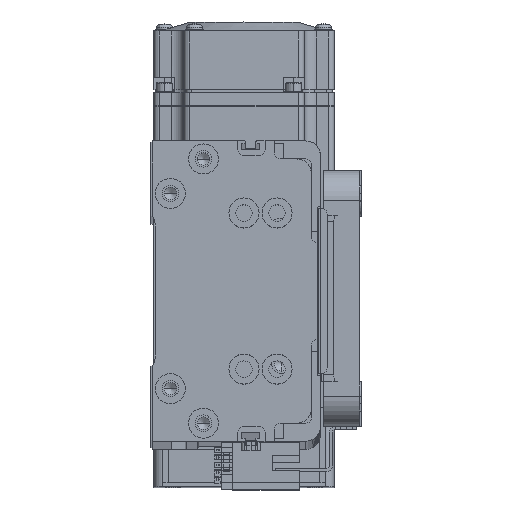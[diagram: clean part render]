
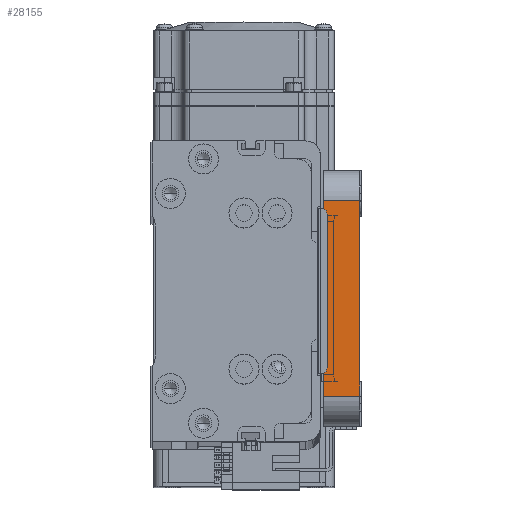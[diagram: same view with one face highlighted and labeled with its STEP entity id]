
A CAD part, top view. The second image highlights one B-rep face of the part: STEP entity #28155.
In plain terms, the highlighted planar face has unit normal (0, 0, 1) as drawn and (-1, 0, 0) by its records, which use the part's own axes.
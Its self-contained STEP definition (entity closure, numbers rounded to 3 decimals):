
#116 = VERTEX_POINT ( 'NONE', #33716 ) ;
#145 = LINE ( 'NONE', #18889, #30703 ) ;
#954 = DIRECTION ( 'NONE',  ( 1., 0., 0. ) ) ;
#3153 = LINE ( 'NONE', #37714, #62526 ) ;
#4729 = EDGE_CURVE ( 'NONE', #61781, #14181, #3153, .T. ) ;
#6270 = LINE ( 'NONE', #64742, #65691 ) ;
#9060 = DIRECTION ( 'NONE',  ( 0., -1., 0. ) ) ;
#14181 = VERTEX_POINT ( 'NONE', #22900 ) ;
#16308 = EDGE_CURVE ( 'NONE', #116, #26889, #6270, .T. ) ;
#17418 = CARTESIAN_POINT ( 'NONE',  ( -55., -32.5, 12. ) ) ;
#18889 = CARTESIAN_POINT ( 'NONE',  ( -55., -42.5, 12. ) ) ;
#21924 = ORIENTED_EDGE ( 'NONE', *, *, #37697, .T. ) ;
#22900 = CARTESIAN_POINT ( 'NONE',  ( -55., 32.5, 0. ) ) ;
#23587 = ORIENTED_EDGE ( 'NONE', *, *, #16308, .T. ) ;
#26457 = CARTESIAN_POINT ( 'NONE',  ( -55., -42.5, 0. ) ) ;
#26889 = VERTEX_POINT ( 'NONE', #17418 ) ;
#28155 = ADVANCED_FACE ( 'NONE', ( #62679 ), #29570, .F. ) ;
#29570 = PLANE ( 'NONE',  #40222 ) ;
#30703 = VECTOR ( 'NONE', #59179, 1000. ) ;
#31682 = CARTESIAN_POINT ( 'NONE',  ( -55., 32.5, 12. ) ) ;
#33716 = CARTESIAN_POINT ( 'NONE',  ( -55., -32.5, 0. ) ) ;
#37697 = EDGE_CURVE ( 'NONE', #14181, #116, #43226, .T. ) ;
#37714 = CARTESIAN_POINT ( 'NONE',  ( -55., 32.5, 12. ) ) ;
#40222 = AXIS2_PLACEMENT_3D ( 'NONE', #69816, #954, #41189 ) ;
#41189 = DIRECTION ( 'NONE',  ( 0., 0., -1. ) ) ;
#42341 = ORIENTED_EDGE ( 'NONE', *, *, #59116, .F. ) ;
#43226 = LINE ( 'NONE', #26457, #58497 ) ;
#46899 = EDGE_LOOP ( 'NONE', ( #21924, #23587, #42341, #58445 ) ) ;
#55021 = DIRECTION ( 'NONE',  ( 0., 0., -1. ) ) ;
#58445 = ORIENTED_EDGE ( 'NONE', *, *, #4729, .T. ) ;
#58497 = VECTOR ( 'NONE', #9060, 1000. ) ;
#59116 = EDGE_CURVE ( 'NONE', #61781, #26889, #145, .T. ) ;
#59179 = DIRECTION ( 'NONE',  ( 0., -1., 0. ) ) ;
#61781 = VERTEX_POINT ( 'NONE', #31682 ) ;
#62526 = VECTOR ( 'NONE', #55021, 1000. ) ;
#62679 = FACE_OUTER_BOUND ( 'NONE', #46899, .T. ) ;
#64742 = CARTESIAN_POINT ( 'NONE',  ( -55., -32.5, 12. ) ) ;
#65691 = VECTOR ( 'NONE', #70482, 1000. ) ;
#69816 = CARTESIAN_POINT ( 'NONE',  ( -55., -42.5, 12. ) ) ;
#70482 = DIRECTION ( 'NONE',  ( 0., 0., 1. ) ) ;
